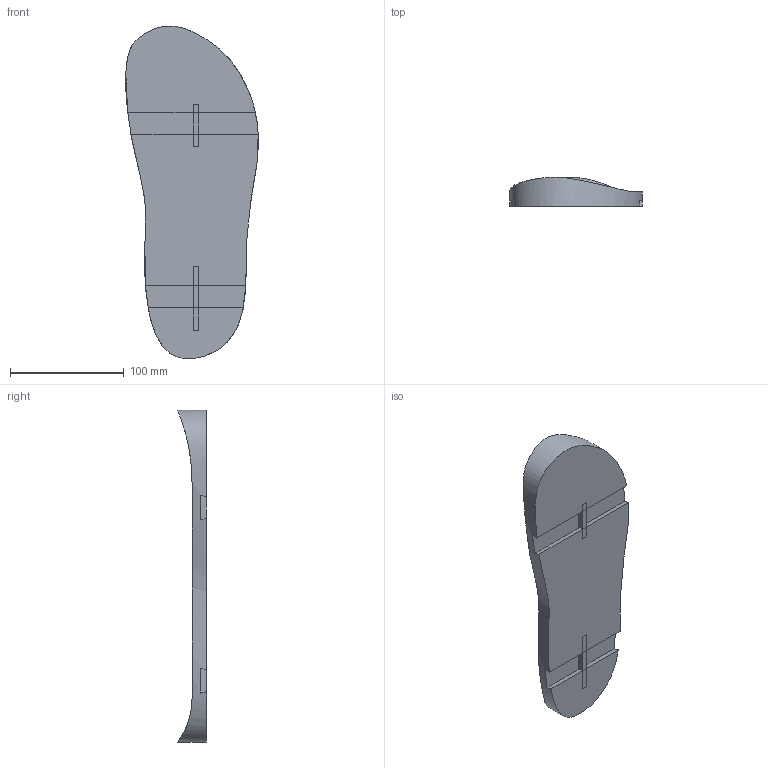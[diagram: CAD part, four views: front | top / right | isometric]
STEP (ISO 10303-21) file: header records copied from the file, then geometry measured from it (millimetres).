
FILE_DESCRIPTION(/* description */ (''),/* implementation_level */ '2;1');
FILE_NAME(/* name */ 'C:\Users\garre\3D Objects\croc skate foot plate.stp',/* time_stamp */ '2021-09-03T20:50:55-04:00',/* author */ ('garre'),/* organization */ (''),/* preprocessor_version */ 'ST-DEVELOPER v18.1',/* originating_system */ 'Autodesk Inventor 2022',/* authorisation */ '');
FILE_SCHEMA (('AUTOMOTIVE_DESIGN { 1 0 10303 214 3 1 1 }'));
Length unit declared in the file: inch
Products named in the file (1): croc skate foot plate
Bounding box: 116.72 x 25.4 x 292.17 mm (x, y, z)
Volume: 304584.9 mm3; surface area: 67452.8 mm2
Topology: 3 solids, 3 shells, 27 faces, 63 edges, 42 vertices
Faces by surface type: plane 24, cylinder 2, bspline 1
Entity records: 1071 total; most frequent: CARTESIAN_POINT 437, ORIENTED_EDGE 126, DIRECTION 93, EDGE_CURVE 63, VERTEX_POINT 42, LINE 39, VECTOR 39, FACE_OUTER_BOUND 27
